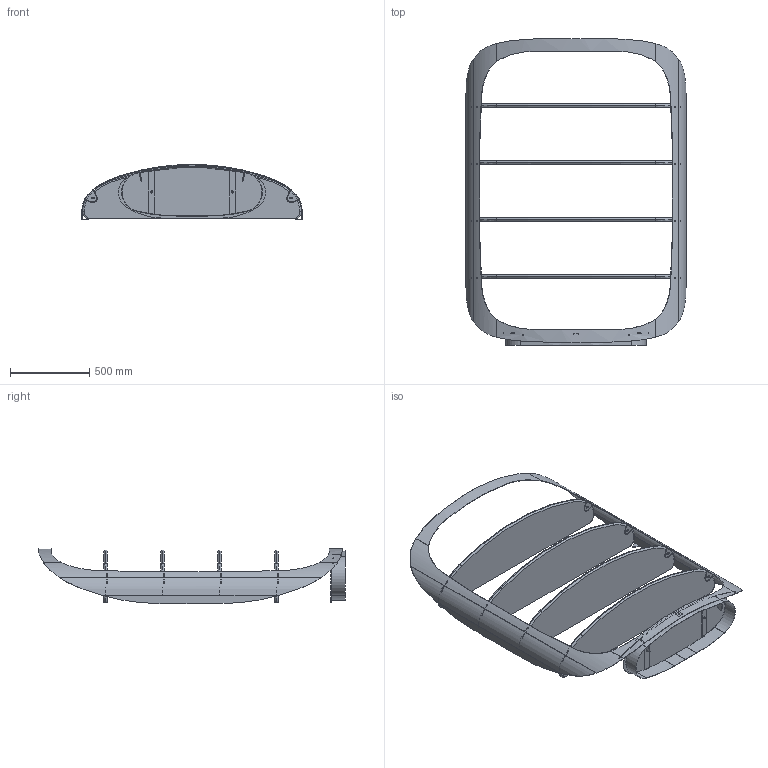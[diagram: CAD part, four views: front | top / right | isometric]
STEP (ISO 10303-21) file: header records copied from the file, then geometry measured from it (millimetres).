
FILE_DESCRIPTION (( 'STEP AP203' ), '1' );
FILE_NAME ('PB10S_Polifermo libreria_139x35x194.STEP', '2024-08-02T08:55:05', ( '' ), ( '' ), 'SwSTEP 2.0', 'SolidWorks 2022', '' );
FILE_SCHEMA (( 'CONFIG_CONTROL_DESIGN' ));
Length unit declared in the file: millimetre
Products named in the file (13): POLL00000_02-00-SUPPORTO FILETTATO PER CORPO CENTRALE; POLL00000_05-00-ANCORAGGIO A PARETE PER CORPO CENTRALE; POLL00000-00-POLIFEMO LIBRERIA CORPO CENTRALE METALLO GREZZO; POLL00000_06-00-LAMIERINO INTERNO RISCONTRO PER CORPO CENTRALE; POLL00001_01-00-BASAMENTO GREZZO; POLL00000_04-00-SUPPORTO RIPIANI PER CORPO CENTRALE; POLL00000_03-00-GAMBA PER CORPO CENTRALE; POLL00001-00-POLIFEMO LIBRERIA BASE METALLO GREZZO; POLL00000_01-00-CORPO CENTRALE; POLL00001_02-00-TRAVERSO PER BASE GREZZO; POLL00002-00-POLIFEMO LIBRERIA RIPIANO BASE METALLO GREZZO; PB10S_Polifermo libreria_139x35x194; POLL00003-00-RIPIANO X LIBRERIA POLIFEMO MDF GREZZO
Assembly tree (25 placements, depth 3):
  PB10S_Polifermo libreria_139x35x194
    POLL00000-00-POLIFEMO LIBRERIA CORPO CENTRALE METALLO GREZZO
      POLL00000_01-00-CORPO CENTRALE
      POLL00000_02-00-SUPPORTO FILETTATO PER CORPO CENTRALE
      POLL00000_03-00-GAMBA PER CORPO CENTRALE  x2
      POLL00000_04-00-SUPPORTO RIPIANI PER CORPO CENTRALE  x8
      POLL00000_05-00-ANCORAGGIO A PARETE PER CORPO CENTRALE  x2
      POLL00000_06-00-LAMIERINO INTERNO RISCONTRO PER CORPO CENTRALE
    POLL00003-00-RIPIANO X LIBRERIA POLIFEMO MDF GREZZO  x4
    POLL00002-00-POLIFEMO LIBRERIA RIPIANO BASE METALLO GREZZO
    POLL00001-00-POLIFEMO LIBRERIA BASE METALLO GREZZO
      POLL00001_01-00-BASAMENTO GREZZO
      POLL00001_02-00-TRAVERSO PER BASE GREZZO  x2
Bounding box: 1395.36 x 1940 x 348.18 mm (x, y, z)
Volume: 36784480.9 mm3; surface area: 6141745.6 mm2
Topology: 23 solids, 23 shells, 697 faces, 1823 edges, 1164 vertices
Faces by surface type: plane 307, cylinder 254, torus 56, bspline 46, cone 34
Entity records: 16645 total; most frequent: CARTESIAN_POINT 5768, ORIENTED_EDGE 1940, DIRECTION 1876, EDGE_CURVE 970, AXIS2_PLACEMENT_3D 662, VERTEX_POINT 624, VECTOR 552, LINE 552
